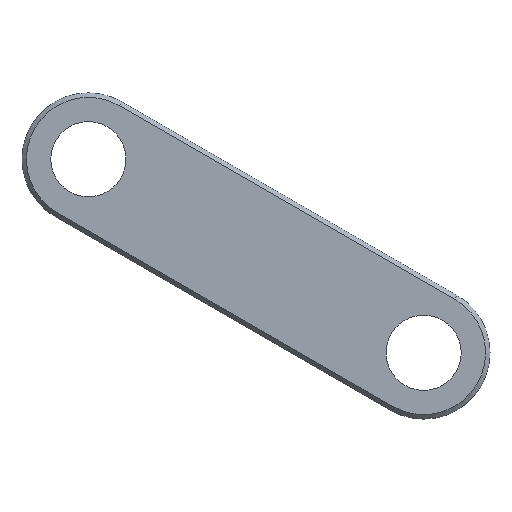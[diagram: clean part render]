
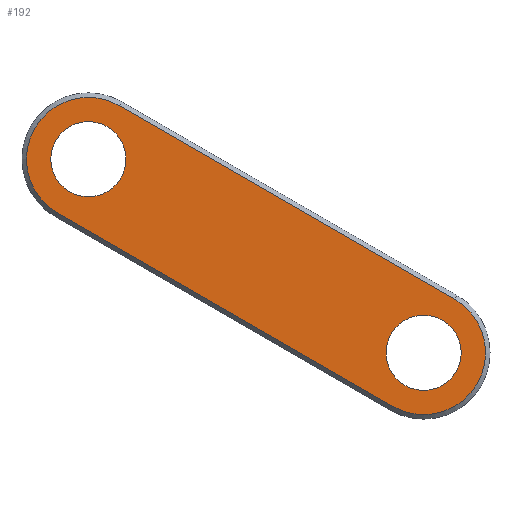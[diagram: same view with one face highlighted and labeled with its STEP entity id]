
A CAD part, left-side view. The second image highlights one B-rep face of the part: STEP entity #192.
In plain terms, the highlighted planar face has unit normal (-1, 0, 0).
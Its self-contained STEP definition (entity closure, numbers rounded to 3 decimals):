
#54=AXIS2_PLACEMENT_3D('Circle Axis2P3D',#52,#53,$) ;
#78=AXIS2_PLACEMENT_3D('Circle Axis2P3D',#76,#77,$) ;
#111=AXIS2_PLACEMENT_3D('Circle Axis2P3D',#109,#110,$) ;
#135=AXIS2_PLACEMENT_3D('Circle Axis2P3D',#133,#134,$) ;
#148=AXIS2_PLACEMENT_3D('Plane Axis2P3D',#145,#146,#147) ;
#161=AXIS2_PLACEMENT_3D('Circle Axis2P3D',#159,#160,$) ;
#175=AXIS2_PLACEMENT_3D('Circle Axis2P3D',#173,#174,$) ;
#49=CARTESIAN_POINT('Vertex',(32549.1,1742.307,2217.976)) ;
#52=CARTESIAN_POINT('Axis2P3D Location',(32549.1,1733.807,2217.976)) ;
#56=CARTESIAN_POINT('Vertex',(32549.1,1725.307,2217.976)) ;
#76=CARTESIAN_POINT('Axis2P3D Location',(32549.1,1733.807,2217.976)) ;
#106=CARTESIAN_POINT('Vertex',(32549.1,1818.074,2261.72)) ;
#109=CARTESIAN_POINT('Axis2P3D Location',(32549.1,1809.574,2261.72)) ;
#113=CARTESIAN_POINT('Vertex',(32549.1,1801.074,2261.72)) ;
#133=CARTESIAN_POINT('Axis2P3D Location',(32549.1,1809.574,2261.72)) ;
#145=CARTESIAN_POINT('Axis2P3D Location',(32549.1,1733.807,2217.976)) ;
#150=CARTESIAN_POINT('Line Origine',(32549.1,1778.69,2227.724)) ;
#154=CARTESIAN_POINT('Vertex',(32549.1,1740.807,2205.852)) ;
#156=CARTESIAN_POINT('Vertex',(32549.1,1816.574,2249.596)) ;
#159=CARTESIAN_POINT('Axis2P3D Location',(32549.1,1733.807,2217.976)) ;
#163=CARTESIAN_POINT('Vertex',(32549.1,1726.807,2230.101)) ;
#166=CARTESIAN_POINT('Line Origine',(32549.1,1764.69,2251.972)) ;
#170=CARTESIAN_POINT('Vertex',(32549.1,1802.574,2273.844)) ;
#173=CARTESIAN_POINT('Axis2P3D Location',(32549.1,1809.574,2261.72)) ;
#53=DIRECTION('Axis2P3D Direction',(1.,-0.,0.)) ;
#77=DIRECTION('Axis2P3D Direction',(1.,-0.,0.)) ;
#110=DIRECTION('Axis2P3D Direction',(1.,-0.,0.)) ;
#134=DIRECTION('Axis2P3D Direction',(1.,-0.,0.)) ;
#146=DIRECTION('Axis2P3D Direction',(1.,0.,0.)) ;
#147=DIRECTION('Axis2P3D XDirection',(0.,1.,0.)) ;
#151=DIRECTION('Vector Direction',(0.,-0.866,-0.5)) ;
#160=DIRECTION('Axis2P3D Direction',(1.,0.,0.)) ;
#167=DIRECTION('Vector Direction',(0.,0.866,0.5)) ;
#174=DIRECTION('Axis2P3D Direction',(1.,0.,0.)) ;
#152=VECTOR('Line Direction',#151,1.) ;
#168=VECTOR('Line Direction',#167,1.) ;
#179=ORIENTED_EDGE('',*,*,#158,.F.) ;
#180=ORIENTED_EDGE('',*,*,#165,.F.) ;
#181=ORIENTED_EDGE('',*,*,#172,.F.) ;
#182=ORIENTED_EDGE('',*,*,#177,.F.) ;
#185=ORIENTED_EDGE('',*,*,#80,.T.) ;
#186=ORIENTED_EDGE('',*,*,#58,.T.) ;
#189=ORIENTED_EDGE('',*,*,#137,.T.) ;
#190=ORIENTED_EDGE('',*,*,#115,.T.) ;
#187=FACE_BOUND('',#184,.T.) ;
#191=FACE_BOUND('',#188,.T.) ;
#192=ADVANCED_FACE('V.9626.7522.810.051-06 - \X2\041704320435043D043E\X0\',(#183,#187,#191),#149,.F.) ;
#55=CIRCLE('generated circle',#54,8.5) ;
#79=CIRCLE('generated circle',#78,8.5) ;
#112=CIRCLE('generated circle',#111,8.5) ;
#136=CIRCLE('generated circle',#135,8.5) ;
#162=CIRCLE('generated circle',#161,14.) ;
#176=CIRCLE('generated circle',#175,14.) ;
#58=EDGE_CURVE('',#57,#50,#55,.T.) ;
#80=EDGE_CURVE('',#50,#57,#79,.T.) ;
#115=EDGE_CURVE('',#114,#107,#112,.T.) ;
#137=EDGE_CURVE('',#107,#114,#136,.T.) ;
#158=EDGE_CURVE('',#155,#157,#153,.F.) ;
#165=EDGE_CURVE('',#164,#155,#162,.T.) ;
#172=EDGE_CURVE('',#171,#164,#169,.F.) ;
#177=EDGE_CURVE('',#157,#171,#176,.T.) ;
#178=EDGE_LOOP('',(#179,#180,#181,#182)) ;
#184=EDGE_LOOP('',(#185,#186)) ;
#188=EDGE_LOOP('',(#189,#190)) ;
#183=FACE_OUTER_BOUND('',#178,.T.) ;
#153=LINE('Line',#150,#152) ;
#169=LINE('Line',#166,#168) ;
#149=PLANE('',#148) ;
#50=VERTEX_POINT('',#49) ;
#57=VERTEX_POINT('',#56) ;
#107=VERTEX_POINT('',#106) ;
#114=VERTEX_POINT('',#113) ;
#155=VERTEX_POINT('',#154) ;
#157=VERTEX_POINT('',#156) ;
#164=VERTEX_POINT('',#163) ;
#171=VERTEX_POINT('',#170) ;
